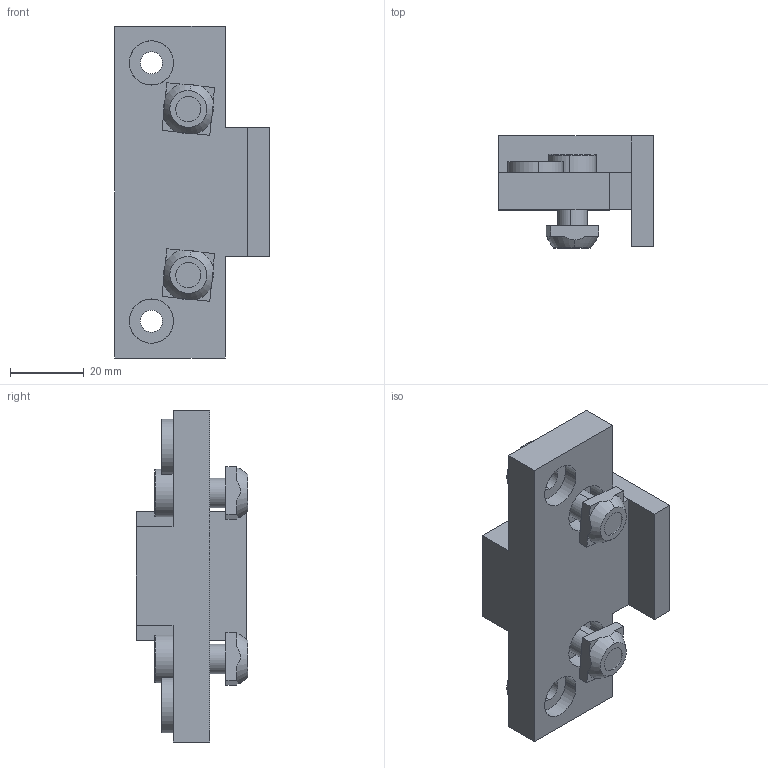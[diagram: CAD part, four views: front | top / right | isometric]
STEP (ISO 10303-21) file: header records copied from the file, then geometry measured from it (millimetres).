
FILE_DESCRIPTION (( 'STEP AP203' ), '1' );
FILE_NAME ('900.400.106.STEP', '2015-05-25T11:48:03', ( '' ), ( '' ), 'SwSTEP 2.0', 'SolidWorks 2012', '' );
FILE_SCHEMA (( 'CONFIG_CONTROL_DESIGN' ));
Length unit declared in the file: millimetre
Products named in the file (1): 900.400.106
Bounding box: 42 x 30.3 x 90 mm (x, y, z)
Volume: 46884.9 mm3; surface area: 18896.3 mm2
Topology: 9 solids, 9 shells, 202 faces, 484 edges, 306 vertices
Faces by surface type: plane 82, cylinder 60, cone 50, torus 10
Entity records: 6047 total; most frequent: CARTESIAN_POINT 1097, DIRECTION 1092, ORIENTED_EDGE 960, EDGE_CURVE 480, AXIS2_PLACEMENT_3D 421, VERTEX_POINT 306, LINE 250, VECTOR 250
